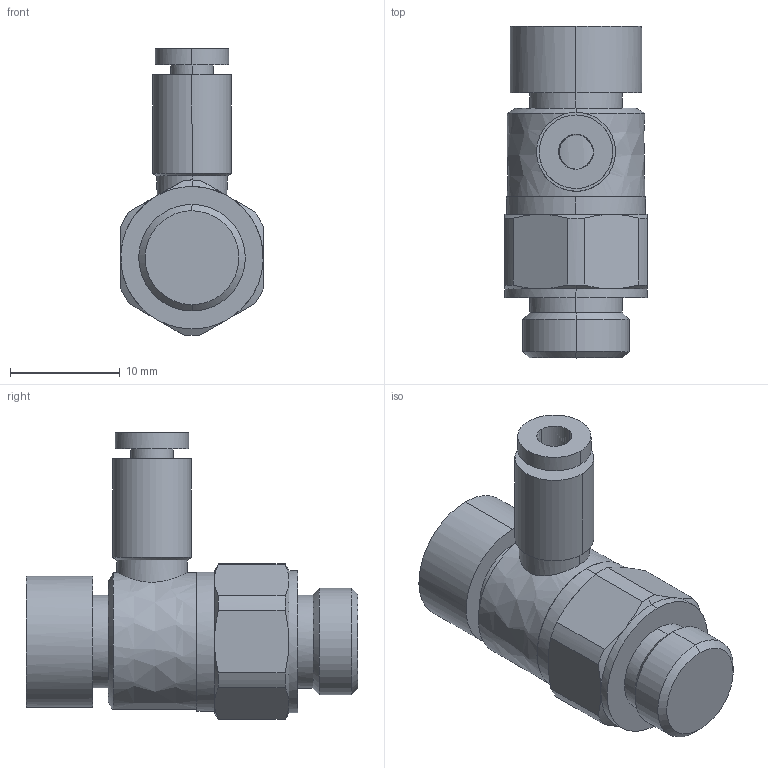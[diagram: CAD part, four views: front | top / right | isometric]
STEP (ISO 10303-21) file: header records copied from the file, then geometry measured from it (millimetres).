
FILE_DESCRIPTION (( 'STEP AP214' ), '1' );
FILE_NAME ('AS2211FC-G01-23A.STEP', '2023-03-08T09:00:24', ( 'Windows User' ), ( 'P R C' ), 'SwSTEP 2.0', 'SolidWorks 2019', '' );
FILE_SCHEMA (( 'AUTOMOTIVE_DESIGN' ));
Length unit declared in the file: millimetre
Products named in the file (1): AS2211FC-G01-23A
Bounding box: 13.01 x 30.3 x 26.2 mm (x, y, z)
Volume: 3812.1 mm3; surface area: 2007.3 mm2
Topology: 1 solids, 1 shells, 73 faces, 166 edges, 105 vertices
Faces by surface type: bspline 55, plane 18
Entity records: 2823 total; most frequent: CARTESIAN_POINT 1759, ORIENTED_EDGE 332, EDGE_CURVE 166, VERTEX_POINT 105, B_SPLINE_CURVE_WITH_KNOTS 101, EDGE_LOOP 83, ADVANCED_FACE 73, FACE_OUTER_BOUND 73
